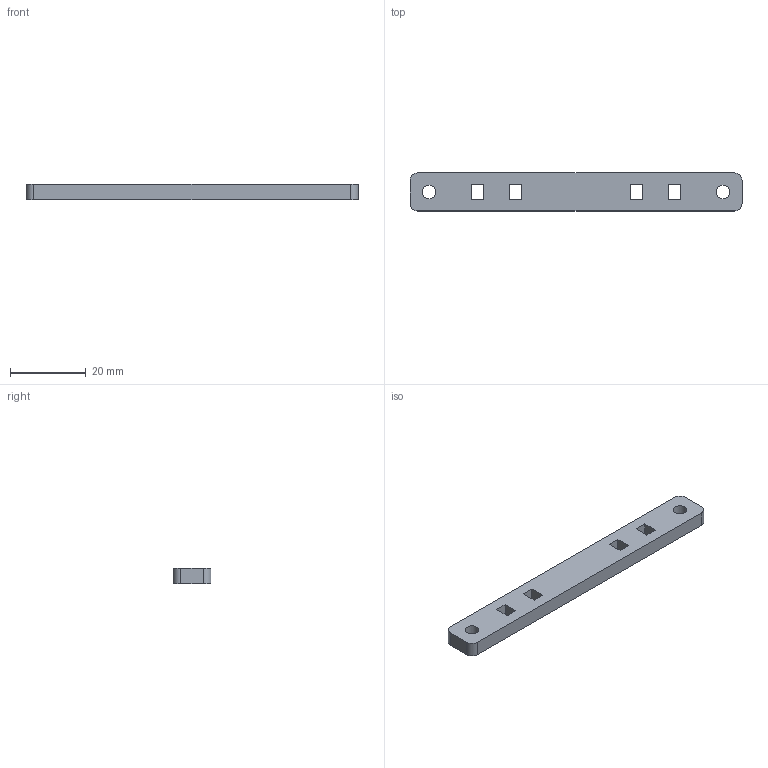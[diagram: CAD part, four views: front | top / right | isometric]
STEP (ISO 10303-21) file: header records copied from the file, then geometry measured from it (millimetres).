
FILE_DESCRIPTION(('FreeCAD Model'),'2;1');
FILE_NAME('Open CASCADE Shape Model','2026-09-11T13:41:27',( '' ),( '' ),'Open CASCADE STEP processor 7.8','FreeCAD','Unknown');
FILE_SCHEMA(('AUTOMOTIVE_DESIGN { 1 0 10303 214 1 1 1 1 }'));
Length unit declared in the file: millimetre
Products named in the file (1): Open CASCADE STEP translator 7.8 7
Bounding box: 87.4 x 10 x 4 mm (x, y, z)
Volume: 3196 mm3; surface area: 2684.4 mm2
Topology: 1 solids, 1 shells, 28 faces, 78 edges, 52 vertices
Faces by surface type: plane 22, cylinder 6
Full cylindrical faces by diameter (mm): 3.6 x2
Entity records: 928 total; most frequent: CARTESIAN_POINT 159, ORIENTED_EDGE 156, DIRECTION 148, EDGE_CURVE 78, LINE 66, VECTOR 66, VERTEX_POINT 52, AXIS2_PLACEMENT_3D 41
